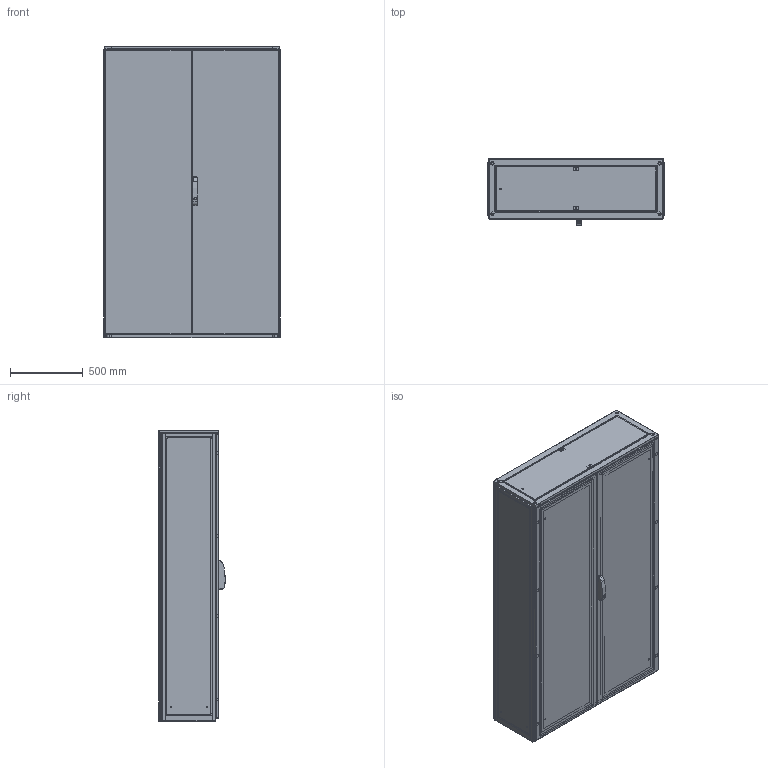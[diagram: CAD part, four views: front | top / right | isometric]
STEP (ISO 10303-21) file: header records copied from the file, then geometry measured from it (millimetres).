
FILE_DESCRIPTION(/* description */ ('STEP AP214'),/* implementation_level */ '2;1');
FILE_NAME(/* name */ 'ENUX122004PR -LOD350',/* time_stamp */ '2025-10-06T09:33:11+02:00',/* author */ ('License CC BY-ND 4.0'),/* organization */ ('CADENAS'),/* preprocessor_version */ 'ST-DEVELOPER v19.3',/* originating_system */ 'PARTsolutions',/* authorisation */ ' ');
FILE_SCHEMA (('AUTOMOTIVE_DESIGN {1 0 10303 214 3 1 1}'));
Length unit declared in the file: millimetre
Products named in the file (11): ENUX122004PR  -LOD350; ENUX122004PR  -LOD3501; ENUX122004PR  -LOD3507; ENUX122004PR  -LOD3502; ENUX122004PR  -LOD35011; ENUX122004PR  -LOD3503; ENUX122004PR  -LOD3508; ENUX122004PR  -LOD3505; ENUX122004PR  -LOD3504; ENUX122004PR  -LOD35010; ENUX122004PR  -LOD3509
Assembly tree (15 placements, depth 2):
  ENUX122004PR  -LOD350
    ENUX122004PR  -LOD3501
    ENUX122004PR  -LOD3507  x2
    ENUX122004PR  -LOD3502
    ENUX122004PR  -LOD35011
    ENUX122004PR  -LOD3503
    ENUX122004PR  -LOD3508
    ENUX122004PR  -LOD3505
    ENUX122004PR  -LOD3504
    ENUX122004PR  -LOD35010  x4
    ENUX122004PR  -LOD3509  x2
Bounding box: 1212 x 457 x 2008.5 mm (x, y, z)
Volume: 27015782.9 mm3; surface area: 22231538.8 mm2
Topology: 15 solids, 22 shells, 1428 faces, 3829 edges, 2500 vertices
Faces by surface type: plane 850, cylinder 528, torus 30, cone 12, sphere 8
Full cylindrical faces by diameter (mm): 6 x15, 9 x13, 12 x4, 14 x2, 17 x2, 28 x2
Entity records: 36566 total; most frequent: CARTESIAN_POINT 6693, DIRECTION 6207, ORIENTED_EDGE 6118, EDGE_CURVE 3059, LINE 2069, VECTOR 2069, AXIS2_PLACEMENT_3D 2069, VERTEX_POINT 2022
